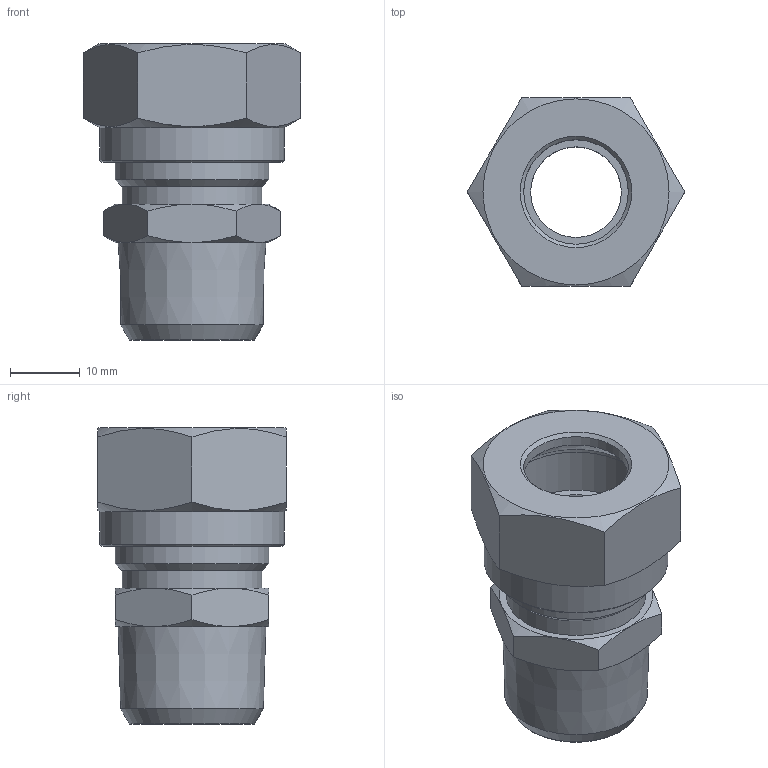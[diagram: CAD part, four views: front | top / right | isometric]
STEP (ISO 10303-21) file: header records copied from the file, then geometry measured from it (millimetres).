
FILE_DESCRIPTION(('Bauteilbeschreibung','HiCAD-Model','HiCAD-STEP-TRANSLATION','Bauteilbeschreibung'),'2;1');
FILE_NAME('B:/ABGLEICH/ZEICHNUNGEN/STEP FÜR INTERNET/STEP/201/94812_201_15_1-2.STP','2011-11-10T16:51:55+00:00',('Konstrukteur'),('Konstrukteur Firma GmbH'),' HiCAD neXt 2008, Step 3.1.1401.2J ','HiCAD neXt 2008','confidential');
FILE_SCHEMA(('AUTOMOTIVE_DESIGN { 1 2 10303 214 0 1 1 1 }'));
Length unit declared in the file: millimetre
Products named in the file (8): A4812_201_15_1_2; A4812; A48120; DIN 13_M22X1_5; R 1_2_14; A6807; A68070; DIN0130M22X105
Assembly tree (7 placements, depth 3):
  A4812_201_15_1_2
    A4812
    A48120
      DIN 13_M22X1_5
      R 1_2_14
    A6807
    A68070
      DIN0130M22X105
Bounding box: 31.18 x 27 x 42.5 mm (x, y, z)
Volume: 11708.9 mm3; surface area: 11712.2 mm2
Topology: 5 solids, 5 shells, 64 faces, 140 edges, 86 vertices
Faces by surface type: cone 30, plane 22, cylinder 12
Full cylindrical faces by diameter (mm): 13 x1, 15 x2, 20 x1, 20.16 x4, 22 x3, 26.5 x1
Entity records: 2163 total; most frequent: CARTESIAN_POINT 322, DIRECTION 268, ORIENTED_EDGE 196, AXIS2_PLACEMENT_3D 128, EDGE_LOOP 104, COLOUR_RGB 103, PRESENTATION_STYLE_ASSIGNMENT 103, CURVE_STYLE 98
